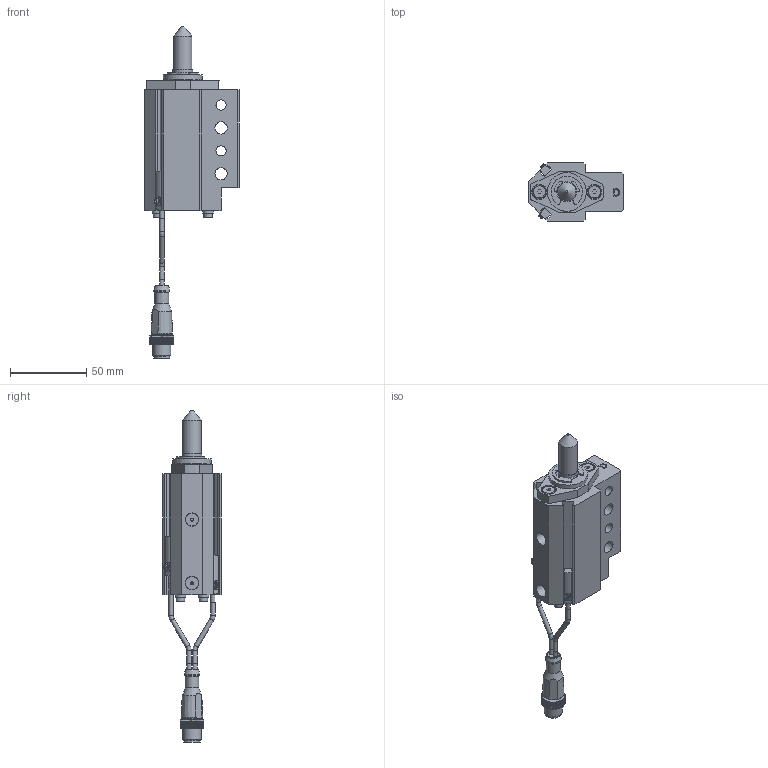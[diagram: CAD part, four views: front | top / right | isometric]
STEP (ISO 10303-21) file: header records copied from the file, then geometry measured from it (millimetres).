
FILE_DESCRIPTION(/* description */ ('NAAMS FLOATING MICRO PIN'),/* implementation_level */ '2;1');
FILE_NAME(/* name */ 'C:\Vault Workspace\CAD\Welker\Shot Pin\NMP\NMP120022ADNL3.stp',/* time_stamp */ '2021-01-27T10:23:06-05:00',/* author */ ('WELKER'),/* organization */ (''),/* preprocessor_version */ 'ST-DEVELOPER v18.1',/* originating_system */ 'Autodesk Inventor 2020',/* authorisation */ '');
FILE_SCHEMA (('AUTOMOTIVE_DESIGN { 1 0 10303 214 3 1 1 }'));
Length unit declared in the file: millimetre
Products named in the file (16): NMPL01; NMP L3 SWITCH; L3 Connector; L3 Sensor 1; L3 Sensor 2; L3 Sensor cable; L3 Sensor cable 2; M3X0.5-8 SHCS; NL3; NMPE06; NMPE03; NMPE05-DIA-LENGTH; 985432A218; NMPE01D-PORT; RMPE02; M5X5 SHOULDER
Assembly tree (22 placements, depth 3):
  NMPL01
    NMP L3 SWITCH
      L3 Connector
      L3 Sensor 1
      L3 Sensor 2
      L3 Sensor cable
      L3 Sensor cable 2
    M3X0.5-8 SHCS  x4
    NL3  x4
    NMPE06
    NMPE03
    NMPE05-DIA-LENGTH
    985432A218
    NMPE01D-PORT
    RMPE02
    M5X5 SHOULDER  x2
Bounding box: 62 x 38.1 x 217.12 mm (x, y, z)
Volume: 113590.6 mm3; surface area: 45509 mm2
Topology: 21 solids, 21 shells, 747 faces, 2022 edges, 1352 vertices
Faces by surface type: plane 548, cylinder 144, cone 31, torus 11, bspline 10, sphere 3
Full cylindrical faces by diameter (mm): 2 x2, 2.459 x4, 2.9 x10, 3 x5, 3.242 x2, 3.4 x4, 4 x2, 5 x6, 5.5 x4, 6.647 x2, 7 x4, 8 x2, 8.3 x2, 9 x3, 10 x3, 10.4 x1, 10.5 x1, 12 x2, 13 x3, 16 x2, 19.05 x3, 21 x1, 22.5 x1, 23.672 x1, 24 x1, 25.4 x1, 25.5 x1, 26.5 x1, 28.677 x1, 29.21 x1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
Entity records: 22825 total; most frequent: CARTESIAN_POINT 4228, ORIENTED_EDGE 3742, DIRECTION 3699, EDGE_CURVE 1871, LINE 1375, VECTOR 1375, VERTEX_POINT 1257, AXIS2_PLACEMENT_3D 1162
